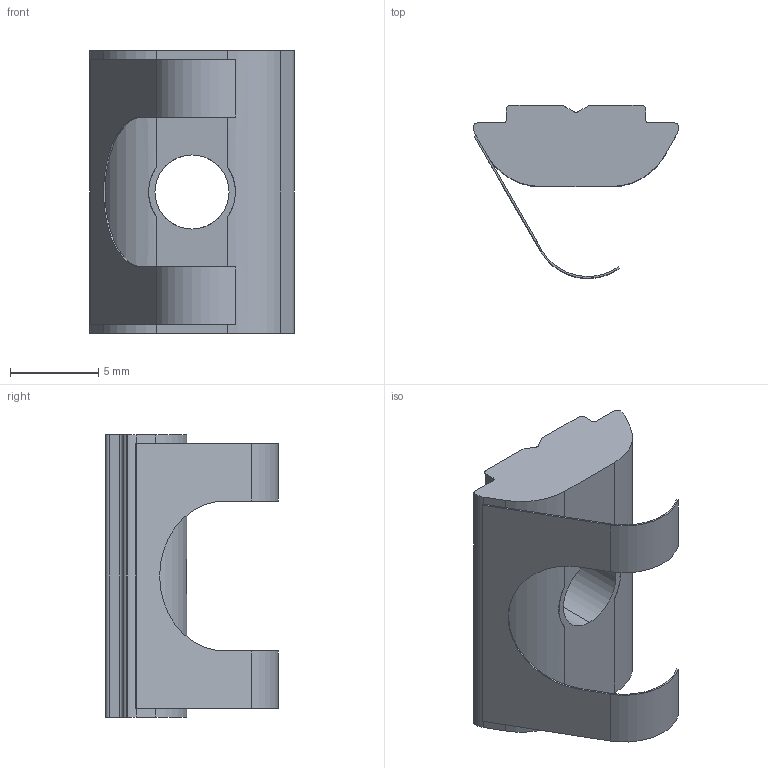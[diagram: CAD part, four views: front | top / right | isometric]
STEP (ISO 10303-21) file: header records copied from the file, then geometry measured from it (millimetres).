
FILE_DESCRIPTION (( 'STEP AP203' ), '1' );
FILE_NAME ('331020_Nutenstein Nut 8 M5 einschwenkbar mit Federblech.step', '2022-02-28T08:00:08', ( '' ), ( '' ), 'SwSTEP 2.0', 'SolidWorks 2021', '' );
FILE_SCHEMA (( 'CONFIG_CONTROL_DESIGN' ));
Length unit declared in the file: millimetre
Products named in the file (1): 331020_Nutenstein Nut 8 M5 einschwenkbar mit Federblech
Bounding box: 11.6 x 9.8 x 16 mm (x, y, z)
Volume: 626.9 mm3; surface area: 748.9 mm2
Topology: 1 solids, 1 shells, 50 faces, 143 edges, 94 vertices
Faces by surface type: plane 28, cylinder 22
Entity records: 1734 total; most frequent: CARTESIAN_POINT 330, ORIENTED_EDGE 286, DIRECTION 275, EDGE_CURVE 143, VERTEX_POINT 94, VECTOR 93, LINE 93, AXIS2_PLACEMENT_3D 91
